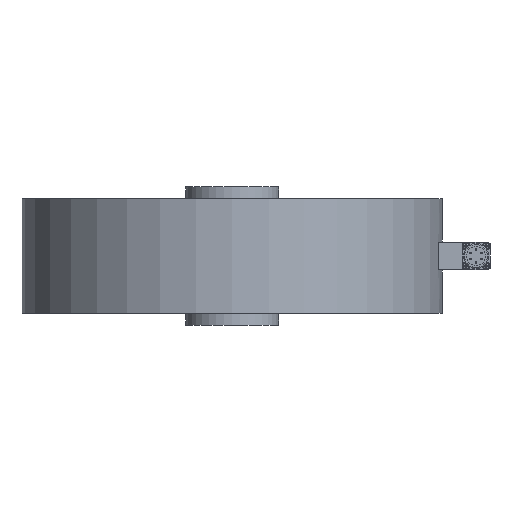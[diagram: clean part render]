
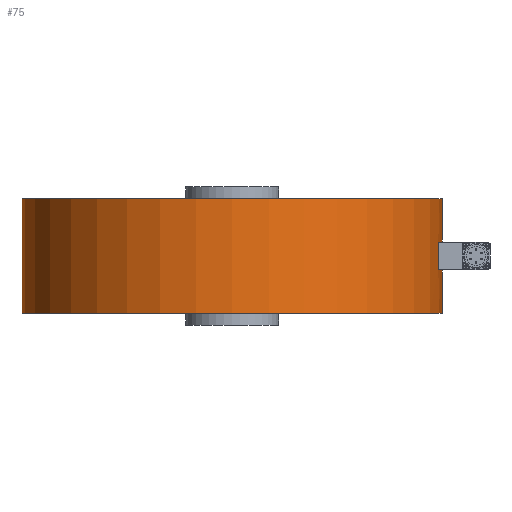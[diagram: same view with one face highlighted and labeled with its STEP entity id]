
A CAD part, front view. The second image highlights one B-rep face of the part: STEP entity #75.
In plain terms, the highlighted cylindrical face has radius 139.7 mm (diameter 279.4 mm), a partial arc.
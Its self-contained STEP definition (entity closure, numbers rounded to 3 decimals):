
#75=ADVANCED_FACE('',(#254),#255,.T.);
#254=FACE_OUTER_BOUND('',#649,.T.);
#255=CYLINDRICAL_SURFACE('',#650,139.7);
#649=EDGE_LOOP('',(#1044,#1045,#1046,#1047,#1048,#1049,#1050,#1051));
#650=AXIS2_PLACEMENT_3D('',#1052,#1053,#1054);
#1044=ORIENTED_EDGE('',*,*,#2460,.F.);
#1045=ORIENTED_EDGE('',*,*,#2461,.T.);
#1046=ORIENTED_EDGE('',*,*,#2462,.F.);
#1047=ORIENTED_EDGE('',*,*,#2463,.F.);
#1048=ORIENTED_EDGE('',*,*,#2464,.F.);
#1049=ORIENTED_EDGE('',*,*,#2465,.T.);
#1050=ORIENTED_EDGE('',*,*,#2466,.T.);
#1051=ORIENTED_EDGE('',*,*,#2467,.T.);
#1052=CARTESIAN_POINT('',(0.0,0.,38.1));
#1053=DIRECTION('',(0.0,0.,1.0));
#1054=DIRECTION('',(1.0,0.0,0.0));
#2460=EDGE_CURVE('',#2901,#2902,#2903,.T.);
#2461=EDGE_CURVE('',#2901,#2904,#2905,.T.);
#2462=EDGE_CURVE('',#2906,#2904,#2907,.T.);
#2463=EDGE_CURVE('',#2908,#2906,#2909,.T.);
#2464=EDGE_CURVE('',#2910,#2908,#2911,.T.);
#2465=EDGE_CURVE('',#2910,#2912,#2913,.T.);
#2466=EDGE_CURVE('',#2912,#2914,#2915,.T.);
#2467=EDGE_CURVE('',#2914,#2902,#2916,.T.);
#2901=VERTEX_POINT('',#3620);
#2902=VERTEX_POINT('',#3621);
#2903=LINE('',#3622,#3623);
#2904=VERTEX_POINT('',#3624);
#2905=CIRCLE('',#3625,139.7);
#2906=VERTEX_POINT('',#3626);
#2907=LINE('',#3627,#3628);
#2908=VERTEX_POINT('',#3629);
#2909=CIRCLE('',#3630,139.7);
#2910=VERTEX_POINT('',#3631);
#2911=LINE('',#3632,#3633);
#2912=VERTEX_POINT('',#3634);
#2913=CIRCLE('',#3635,139.7);
#2914=VERTEX_POINT('',#3636);
#2915=LINE('',#3637,#3638);
#2916=CIRCLE('',#3639,139.7);
#3620=CARTESIAN_POINT('',(139.7,0.,76.2));
#3621=CARTESIAN_POINT('',(139.7,0.,47.4));
#3622=CARTESIAN_POINT('',(139.7,0.,38.1));
#3623=VECTOR('',#5050,1.0);
#3624=CARTESIAN_POINT('',(-139.7,0.,76.2));
#3625=AXIS2_PLACEMENT_3D('',#5051,#5052,#5053);
#3626=CARTESIAN_POINT('',(-139.7,0.,0.));
#3627=CARTESIAN_POINT('',(-139.7,0.,38.1));
#3628=VECTOR('',#5054,1.0);
#3629=CARTESIAN_POINT('',(139.7,0.0,0.0));
#3630=AXIS2_PLACEMENT_3D('',#5055,#5056,#5057);
#3631=CARTESIAN_POINT('',(139.7,0.,28.8));
#3632=CARTESIAN_POINT('',(139.7,0.,38.1));
#3633=VECTOR('',#5058,1.0);
#3634=CARTESIAN_POINT('',(137.184,-26.395,28.8));
#3635=AXIS2_PLACEMENT_3D('',#5059,#5060,#5061);
#3636=CARTESIAN_POINT('',(137.184,-26.395,47.4));
#3637=CARTESIAN_POINT('',(137.184,-26.395,38.1));
#3638=VECTOR('',#5062,1.0);
#3639=AXIS2_PLACEMENT_3D('',#5063,#5064,#5065);
#5050=DIRECTION('',(0.0,0.,-1.0));
#5051=CARTESIAN_POINT('',(0.0,0.,76.2));
#5052=DIRECTION('',(0.0,0.,-1.0));
#5053=DIRECTION('',(1.0,0.0,0.0));
#5054=DIRECTION('',(0.0,0.,1.0));
#5055=CARTESIAN_POINT('',(0.0,0.0,0.0));
#5056=DIRECTION('',(0.0,0.,-1.0));
#5057=DIRECTION('',(1.0,0.0,0.0));
#5058=DIRECTION('',(0.0,0.,-1.0));
#5059=CARTESIAN_POINT('',(0.0,0.,28.8));
#5060=DIRECTION('',(0.,0.0,-1.0));
#5061=DIRECTION('',(1.0,0.0,0.));
#5062=DIRECTION('',(0.0,0.,1.0));
#5063=CARTESIAN_POINT('',(0.0,0.,47.4));
#5064=DIRECTION('',(0.,0.0,1.0));
#5065=DIRECTION('',(1.0,0.0,0.));
